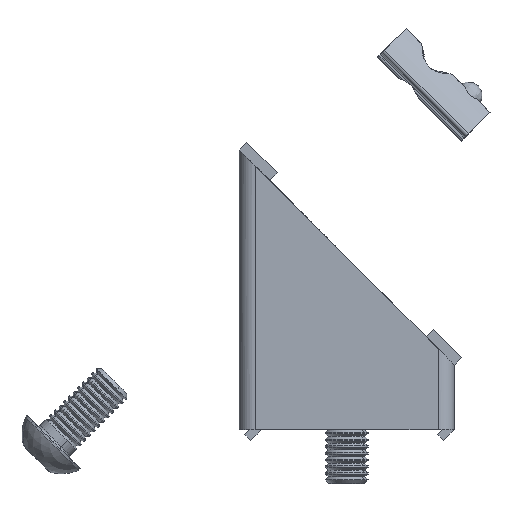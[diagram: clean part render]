
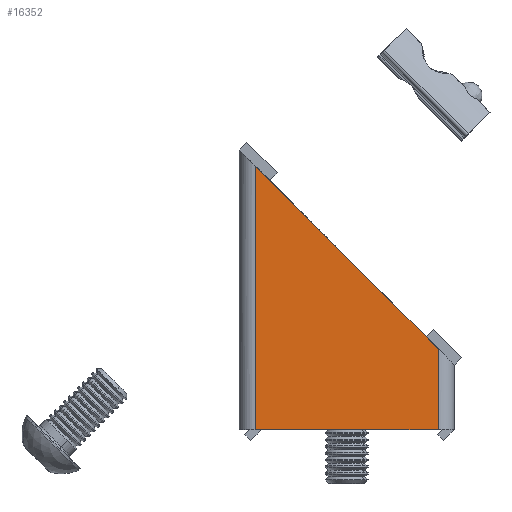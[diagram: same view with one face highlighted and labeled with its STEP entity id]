
A CAD part, left-side view. The second image highlights one B-rep face of the part: STEP entity #16352.
In plain terms, the highlighted planar face has unit normal (-1, 0, 0).
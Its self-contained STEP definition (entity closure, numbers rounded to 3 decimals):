
#227 = VECTOR ( 'NONE', #9995, 1000. ) ;
#1625 = AXIS2_PLACEMENT_3D ( 'NONE', #12442, #4718, #10140 ) ;
#1791 = CARTESIAN_POINT ( 'NONE',  ( -20., 17., 0. ) ) ;
#1811 = ORIENTED_EDGE ( 'NONE', *, *, #13488, .F. ) ;
#2038 = CARTESIAN_POINT ( 'NONE',  ( -20., -17., 15. ) ) ;
#2090 = DIRECTION ( 'NONE',  ( 0., -1., 0. ) ) ;
#2200 = CARTESIAN_POINT ( 'NONE',  ( -20., -17., 0. ) ) ;
#2263 = CARTESIAN_POINT ( 'NONE',  ( -20., 17., 0. ) ) ;
#2715 = CARTESIAN_POINT ( 'NONE',  ( -20., 17., 49. ) ) ;
#3083 = EDGE_CURVE ( 'NONE', #10393, #5795, #13373, .T. ) ;
#3797 = LINE ( 'NONE', #2263, #11911 ) ;
#4450 = DIRECTION ( 'NONE',  ( 0., 0., -1. ) ) ;
#4604 = EDGE_CURVE ( 'NONE', #10393, #4714, #8091, .T. ) ;
#4714 = VERTEX_POINT ( 'NONE', #2200 ) ;
#4718 = DIRECTION ( 'NONE',  ( 1., 0., 0. ) ) ;
#4816 = CARTESIAN_POINT ( 'NONE',  ( -20., 17., 52. ) ) ;
#5155 = ORIENTED_EDGE ( 'NONE', *, *, #3083, .T. ) ;
#5795 = VERTEX_POINT ( 'NONE', #2715 ) ;
#6899 = CARTESIAN_POINT ( 'NONE',  ( -20., -17., 52. ) ) ;
#7973 = VERTEX_POINT ( 'NONE', #1791 ) ;
#8091 = LINE ( 'NONE', #6899, #16573 ) ;
#8259 = DIRECTION ( 'NONE',  ( 0., 0.707, 0.707 ) ) ;
#8798 = LINE ( 'NONE', #4816, #227 ) ;
#9420 = EDGE_LOOP ( 'NONE', ( #5155, #1811, #14720, #11883 ) ) ;
#9995 = DIRECTION ( 'NONE',  ( 0., 0., 1. ) ) ;
#10140 = DIRECTION ( 'NONE',  ( 0., 1., 0. ) ) ;
#10393 = VERTEX_POINT ( 'NONE', #2038 ) ;
#11883 = ORIENTED_EDGE ( 'NONE', *, *, #4604, .F. ) ;
#11911 = VECTOR ( 'NONE', #2090, 1000. ) ;
#12442 = CARTESIAN_POINT ( 'NONE',  ( -20., 17., 52. ) ) ;
#12693 = FACE_OUTER_BOUND ( 'NONE', #9420, .T. ) ;
#13373 = LINE ( 'NONE', #14902, #13798 ) ;
#13488 = EDGE_CURVE ( 'NONE', #7973, #5795, #8798, .T. ) ;
#13798 = VECTOR ( 'NONE', #8259, 1000. ) ;
#14720 = ORIENTED_EDGE ( 'NONE', *, *, #15425, .T. ) ;
#14902 = CARTESIAN_POINT ( 'NONE',  ( -20., 20., 52. ) ) ;
#15425 = EDGE_CURVE ( 'NONE', #7973, #4714, #3797, .T. ) ;
#16352 = ADVANCED_FACE ( 'NONE', ( #12693 ), #16455, .F. ) ;
#16455 = PLANE ( 'NONE',  #1625 ) ;
#16573 = VECTOR ( 'NONE', #4450, 1000. ) ;
